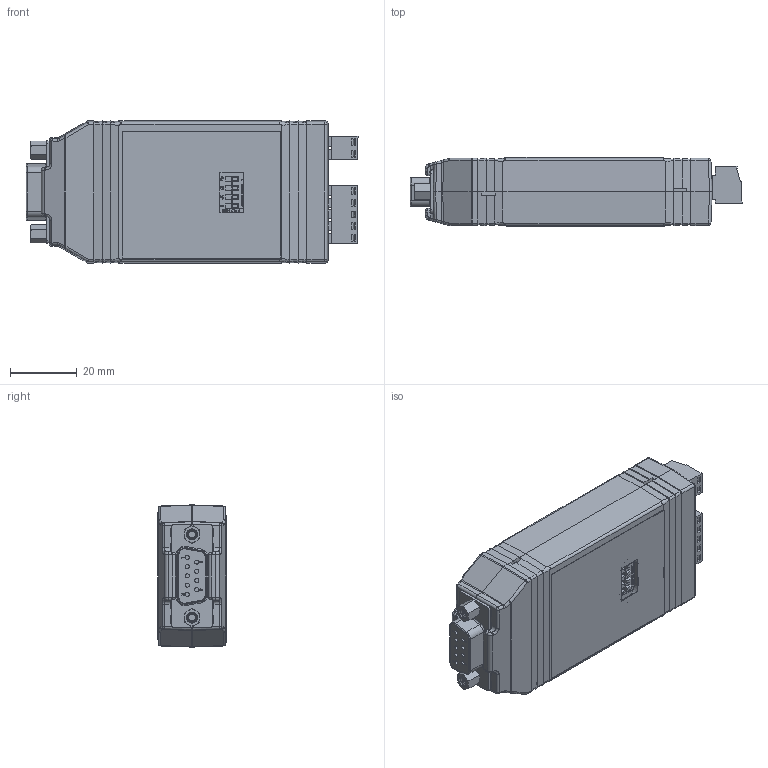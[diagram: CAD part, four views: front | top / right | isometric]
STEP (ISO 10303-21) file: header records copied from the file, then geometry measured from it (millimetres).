
FILE_DESCRIPTION (( 'STEP AP214' ), '1' );
FILE_NAME ('4WSD9OTB.STEP', '2019-05-01T16:56:56', ( '' ), ( '' ), 'SwSTEP 2.0', 'SolidWorks 2016', '' );
FILE_SCHEMA (( 'AUTOMOTIVE_DESIGN' ));
Length unit declared in the file: inch
Products named in the file (16): 4799 DB9S PEM Crimp Female; DB Conn Screw Lock Female; 1267 DB9 Female; 7372 5 POS Terminal Block Plug; 7175 2 POS Terminal Block Plug; 7185 2 POS Terminal Block Header; 7371 5 POS Terminal Block Header; 9679 Assembly; 9679 Top Half; 9679 Bottom Half; 4WSD9OTB; 9650 UL; 250-10699-00 Top Label; 6185 Red SMT LED; 1010 4 POS Dip Switch; 7432 PCB
Assembly tree (17 placements, depth 3):
  4WSD9OTB
    9679 Assembly
      9679 Bottom Half
      9679 Top Half
    7371 5 POS Terminal Block Header
    7185 2 POS Terminal Block Header
    7175 2 POS Terminal Block Plug
    7372 5 POS Terminal Block Plug
    4799 DB9S PEM Crimp Female
      1267 DB9 Female
      DB Conn Screw Lock Female  x2
    7432 PCB
    1010 4 POS Dip Switch
    6185 Red SMT LED  x2
    250-10699-00 Top Label
    9650 UL
Bounding box: 99.67 x 20.68 x 42.67 mm (x, y, z)
Volume: 30820.8 mm3; surface area: 43720.6 mm2
Topology: 15 solids, 15 shells, 2276 faces, 5909 edges, 3805 vertices
Faces by surface type: plane 1423, cylinder 467, bspline 239, torus 73, cone 58, sphere 16
Entity records: 83990 total; most frequent: CARTESIAN_POINT 24963, ORIENTED_EDGE 11402, DIRECTION 9846, EDGE_CURVE 5701, VECTOR 4096, LINE 4096, VERTEX_POINT 3690, AXIS2_PLACEMENT_3D 2875
